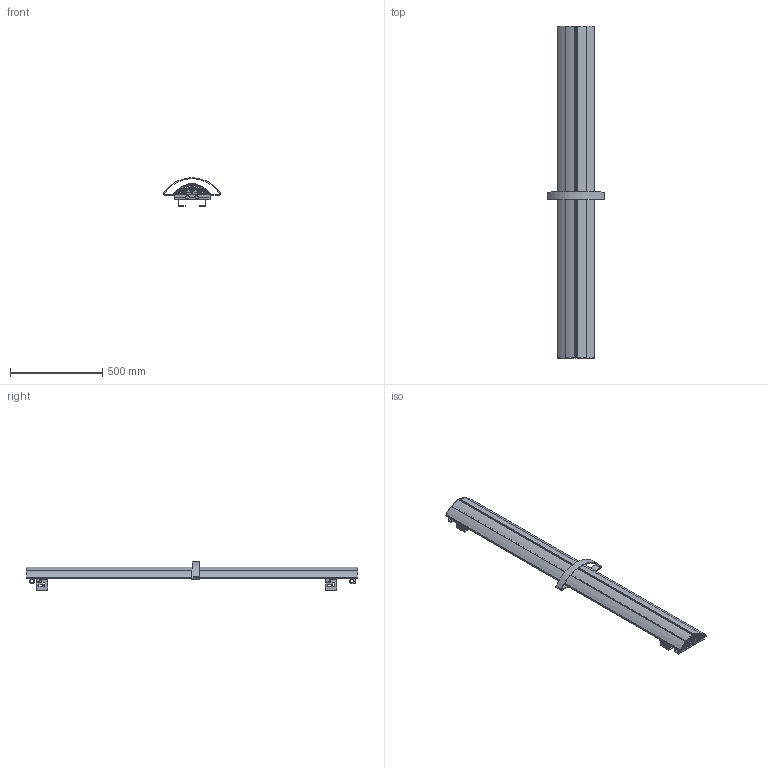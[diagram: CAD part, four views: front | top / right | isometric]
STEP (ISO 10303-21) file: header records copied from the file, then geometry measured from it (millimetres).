
FILE_DESCRIPTION (( 'STEP AP214' ), '1' );
FILE_NAME ('NIXIE BATH.STEP', '2020-07-10T06:17:59', ( 'termosan' ), ( '' ), 'SwSTEP 2.0', 'SolidWorks 2009', '' );
FILE_SCHEMA (( 'AUTOMOTIVE_DESIGN' ));
Length unit declared in the file: millimetre
Products named in the file (14): VÝZYON HB KOL. 195; NIXIE-1800_PK1000A01; VÝZYON KOL. 195; üçgen kapak sað_10608012; üçgen kapak SOL_10608015; SAC ASKI SOL; sac aský-sol_3_2; SAC ASKI SAﾐ; sac aský-sað_3_2; YENÝ OMEGA; NIXIE TOWEL HOLDER  KROM_11003023; NIXIE KAPAK SA胙10608015; NIXIE KAPAK SOLL_10608012; NIXIE BATH
Assembly tree (17 placements, depth 3):
  NIXIE BATH
    NIXIE-1800_PK1000A01  x2
    NIXIE KAPAK SOLL_10608012
    SAC ASKI SAﾐ  x2
      YENÝ OMEGA
      sac aský-sað_3_2
    üçgen kapak SOL_10608015
    NIXIE KAPAK SA胙10608015
    üçgen kapak sað_10608012
    SAC ASKI SOL  x2
      YENÝ OMEGA
      sac aský-sol_3_2
    NIXIE TOWEL HOLDER  KROM_11003023
    VÝZYON KOL. 195
    VÝZYON HB KOL. 195
Bounding box: 309.98 x 1800 x 153.86 mm (x, y, z)
Volume: 3536523.5 mm3; surface area: 2993464.9 mm2
Topology: 17 solids, 17 shells, 1311 faces, 3489 edges, 2214 vertices
Faces by surface type: cylinder 593, plane 458, torus 228, cone 32
Entity records: 31879 total; most frequent: DIRECTION 5894, CARTESIAN_POINT 5807, ORIENTED_EDGE 5148, EDGE_CURVE 2574, AXIS2_PLACEMENT_3D 2356, VERTEX_POINT 1604, CIRCLE 1338, LINE 1182
